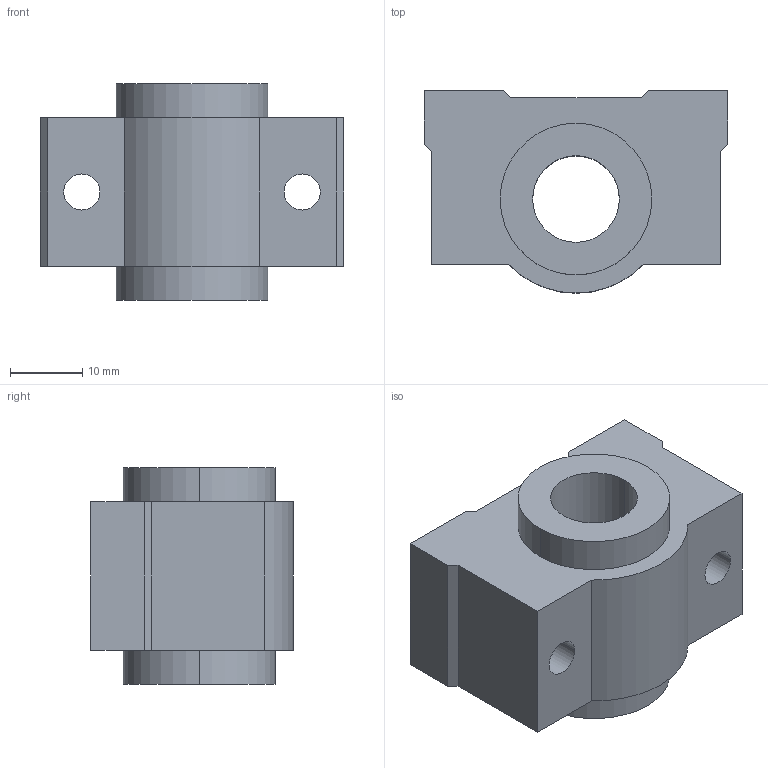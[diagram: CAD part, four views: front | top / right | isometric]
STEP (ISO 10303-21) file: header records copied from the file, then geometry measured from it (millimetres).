
FILE_DESCRIPTION((''),'2;1');
FILE_NAME('C:\Documents and Settings\ｿﾀﾀ蠑ｷ1\ｹﾙﾅﾁ ﾈｭｸ饅\ｺﾎﾇｰﾆﾄﾀﾏ\ﾁｦﾇｰ\SC__VUUN\SC12VUUN.stp','2005-06-22T11:25:23',('ｿﾀﾀ蠑ｷ1'),(''),'Autodesk Inventor 9','Autodesk Inventor 9','');
FILE_SCHEMA(('AUTOMOTIVE_DESIGN { 1 0 10303 214 1 1 1 1 }'));
Length unit declared in the file: millimetre
Products named in the file (1): SC__VUUN
Bounding box: 42 x 28 x 30 mm (x, y, z)
Volume: 19631.5 mm3; surface area: 6968.1 mm2
Topology: 1 solids, 1 shells, 28 faces, 72 edges, 48 vertices
Faces by surface type: plane 17, cylinder 7, bspline 4
Entity records: 945 total; most frequent: CARTESIAN_POINT 217, DIRECTION 144, ORIENTED_EDGE 144, EDGE_CURVE 72, VECTOR 50, LINE 50, VERTEX_POINT 48, AXIS2_PLACEMENT_3D 47
